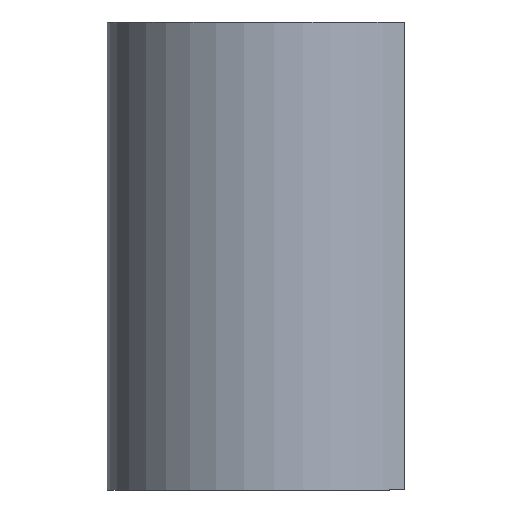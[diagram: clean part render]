
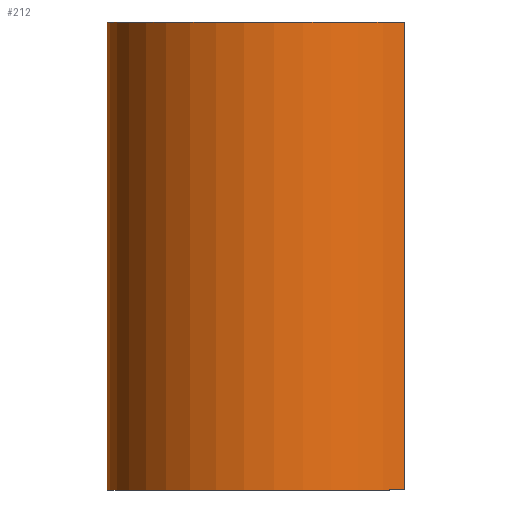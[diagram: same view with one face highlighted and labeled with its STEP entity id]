
A CAD part, front view. The second image highlights one B-rep face of the part: STEP entity #212.
In plain terms, the highlighted cylindrical face has radius 16.5 mm (diameter 33 mm), a partial arc.
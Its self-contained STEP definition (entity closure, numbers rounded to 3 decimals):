
#4 = CARTESIAN_POINT ( 'NONE',  ( 12.12, -11.196, 22.5 ) ) ;
#5 = CARTESIAN_POINT ( 'NONE',  ( 0., 0., 22.5 ) ) ;
#26 = AXIS2_PLACEMENT_3D ( 'NONE', #32, #29, #162 ) ;
#29 = DIRECTION ( 'NONE',  ( 0., 0., 1. ) ) ;
#32 = CARTESIAN_POINT ( 'NONE',  ( 0., 0., -22.5 ) ) ;
#33 = LINE ( 'NONE', #75, #143 ) ;
#41 = DIRECTION ( 'NONE',  ( 0., 0., 1. ) ) ;
#49 = DIRECTION ( 'NONE',  ( 0., 0., -1. ) ) ;
#52 = CARTESIAN_POINT ( 'NONE',  ( 12.12, -11.196, 22.5 ) ) ;
#56 = ORIENTED_EDGE ( 'NONE', *, *, #225, .T. ) ;
#60 = ORIENTED_EDGE ( 'NONE', *, *, #155, .T. ) ;
#72 = CARTESIAN_POINT ( 'NONE',  ( 12.12, -11.196, -22.5 ) ) ;
#75 = CARTESIAN_POINT ( 'NONE',  ( -16.5, 0., 22.5 ) ) ;
#81 = VECTOR ( 'NONE', #264, 1000. ) ;
#82 = VERTEX_POINT ( 'NONE', #4 ) ;
#92 = EDGE_CURVE ( 'NONE', #168, #82, #109, .T. ) ;
#95 = FACE_OUTER_BOUND ( 'NONE', #207, .T. ) ;
#96 = CARTESIAN_POINT ( 'NONE',  ( 0., 0., 22.5 ) ) ;
#101 = ORIENTED_EDGE ( 'NONE', *, *, #92, .F. ) ;
#109 = CIRCLE ( 'NONE', #260, 16.5 ) ;
#117 = CARTESIAN_POINT ( 'NONE',  ( -16.5, 0., -22.5 ) ) ;
#127 = EDGE_CURVE ( 'NONE', #190, #82, #204, .T. ) ;
#143 = VECTOR ( 'NONE', #228, 1000. ) ;
#152 = CIRCLE ( 'NONE', #26, 16.5 ) ;
#155 = EDGE_CURVE ( 'NONE', #168, #169, #33, .T. ) ;
#162 = DIRECTION ( 'NONE',  ( 1., 0., 0. ) ) ;
#163 = CARTESIAN_POINT ( 'NONE',  ( -16.5, 0., 22.5 ) ) ;
#165 = ORIENTED_EDGE ( 'NONE', *, *, #127, .T. ) ;
#168 = VERTEX_POINT ( 'NONE', #163 ) ;
#169 = VERTEX_POINT ( 'NONE', #117 ) ;
#190 = VERTEX_POINT ( 'NONE', #72 ) ;
#200 = DIRECTION ( 'NONE',  ( -1., 0., 0. ) ) ;
#204 = LINE ( 'NONE', #52, #81 ) ;
#207 = EDGE_LOOP ( 'NONE', ( #101, #60, #56, #165 ) ) ;
#212 = ADVANCED_FACE ( 'NONE', ( #95 ), #261, .T. ) ;
#225 = EDGE_CURVE ( 'NONE', #169, #190, #152, .T. ) ;
#228 = DIRECTION ( 'NONE',  ( 0., 0., -1. ) ) ;
#233 = AXIS2_PLACEMENT_3D ( 'NONE', #96, #49, #200 ) ;
#241 = DIRECTION ( 'NONE',  ( 1., 0., 0. ) ) ;
#260 = AXIS2_PLACEMENT_3D ( 'NONE', #5, #41, #241 ) ;
#261 = CYLINDRICAL_SURFACE ( 'NONE', #233, 16.5 ) ;
#264 = DIRECTION ( 'NONE',  ( 0., 0., 1. ) ) ;
